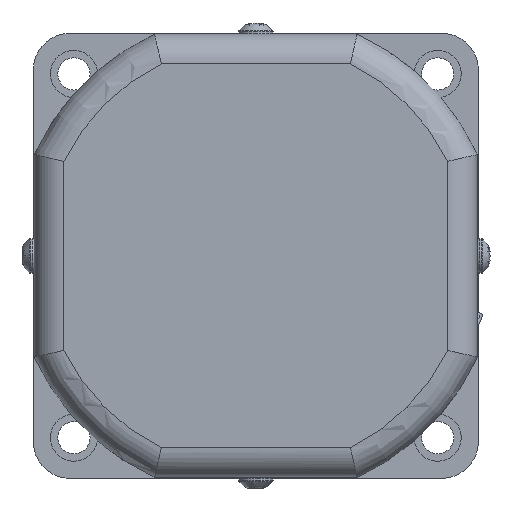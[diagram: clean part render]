
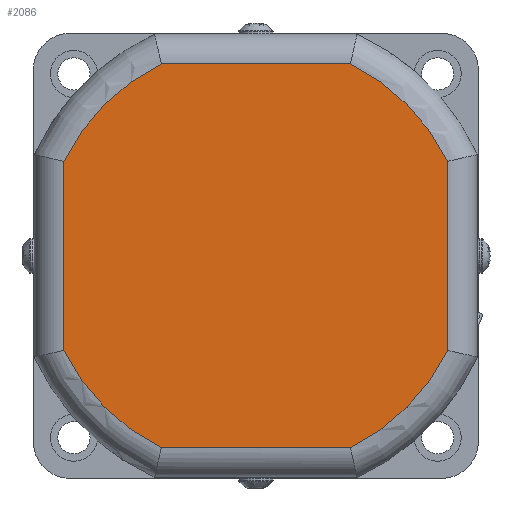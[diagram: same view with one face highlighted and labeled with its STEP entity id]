
A CAD part, left-side view. The second image highlights one B-rep face of the part: STEP entity #2086.
In plain terms, the highlighted planar face has unit normal (-1, 0, 0).
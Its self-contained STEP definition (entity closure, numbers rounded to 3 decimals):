
#1744=CARTESIAN_POINT('',(-23.,-38.8,19.108));
#1745=VERTEX_POINT('',#1744);
#1770=CARTESIAN_POINT('',(-23.,-19.108,38.8));
#1771=VERTEX_POINT('',#1770);
#1789=CARTESIAN_POINT('',(-23.,0.,0.));
#1790=DIRECTION('',(1.0,0.,0.));
#1791=DIRECTION('',(0.,-0.707,0.707));
#1792=AXIS2_PLACEMENT_3D('',#1789,#1790,#1791);
#1793=CIRCLE('',#1792,43.25);
#1794=EDGE_CURVE('',#1771,#1745,#1793,.T.);
#1804=CARTESIAN_POINT('',(-23.,19.108,38.8));
#1805=VERTEX_POINT('',#1804);
#1823=CARTESIAN_POINT('',(-23.,19.108,38.8));
#1824=DIRECTION('',(0.0,-1.0,0.0));
#1825=VECTOR('',#1824,38.216);
#1826=LINE('',#1823,#1825);
#1827=EDGE_CURVE('',#1805,#1771,#1826,.T.);
#1839=CARTESIAN_POINT('',(-23.,-38.8,-19.108));
#1840=VERTEX_POINT('',#1839);
#1860=CARTESIAN_POINT('',(-23.,-38.8,19.108));
#1861=DIRECTION('',(0.0,0.0,-1.0));
#1862=VECTOR('',#1861,38.216);
#1863=LINE('',#1860,#1862);
#1864=EDGE_CURVE('',#1745,#1840,#1863,.T.);
#1874=CARTESIAN_POINT('',(-23.,38.8,19.108));
#1875=VERTEX_POINT('',#1874);
#1893=CARTESIAN_POINT('',(-23.,0.,0.));
#1894=DIRECTION('',(1.0,0.,0.));
#1895=DIRECTION('',(0.,0.707,0.707));
#1896=AXIS2_PLACEMENT_3D('',#1893,#1894,#1895);
#1897=CIRCLE('',#1896,43.25);
#1898=EDGE_CURVE('',#1875,#1805,#1897,.T.);
#1916=CARTESIAN_POINT('',(-23.,-19.108,-38.8));
#1917=VERTEX_POINT('',#1916);
#1943=CARTESIAN_POINT('',(-23.,0.,0.));
#1944=DIRECTION('',(1.0,0.,0.));
#1945=DIRECTION('',(0.,-0.707,-0.707));
#1946=AXIS2_PLACEMENT_3D('',#1943,#1944,#1945);
#1947=CIRCLE('',#1946,43.25);
#1948=EDGE_CURVE('',#1840,#1917,#1947,.T.);
#1958=CARTESIAN_POINT('',(-23.,38.8,-19.108));
#1959=VERTEX_POINT('',#1958);
#1977=CARTESIAN_POINT('',(-23.,38.8,-19.108));
#1978=DIRECTION('',(0.0,0.0,1.0));
#1979=VECTOR('',#1978,38.216);
#1980=LINE('',#1977,#1979);
#1981=EDGE_CURVE('',#1959,#1875,#1980,.T.);
#1993=CARTESIAN_POINT('',(-23.,19.108,-38.8));
#1994=VERTEX_POINT('',#1993);
#2014=CARTESIAN_POINT('',(-23.,-19.108,-38.8));
#2015=DIRECTION('',(0.0,1.0,0.0));
#2016=VECTOR('',#2015,38.216);
#2017=LINE('',#2014,#2016);
#2018=EDGE_CURVE('',#1917,#1994,#2017,.T.);
#2029=CARTESIAN_POINT('',(-23.,0.,0.));
#2030=DIRECTION('',(1.,0.,0.));
#2031=DIRECTION('',(0.,0.707,-0.707));
#2032=AXIS2_PLACEMENT_3D('',#2029,#2030,#2031);
#2033=CIRCLE('',#2032,43.25);
#2034=EDGE_CURVE('',#1994,#1959,#2033,.T.);
#2071=CARTESIAN_POINT('',(-23.,0.,0.));
#2072=DIRECTION('',(1.0,0.0,0.0));
#2073=DIRECTION('',(0.0,-1.0,0.0));
#2074=AXIS2_PLACEMENT_3D('',#2071,#2072,#2073);
#2075=PLANE('',#2074);
#2076=ORIENTED_EDGE('',*,*,#2018,.F.);
#2077=ORIENTED_EDGE('',*,*,#1948,.F.);
#2078=ORIENTED_EDGE('',*,*,#1864,.F.);
#2079=ORIENTED_EDGE('',*,*,#1794,.F.);
#2080=ORIENTED_EDGE('',*,*,#1827,.F.);
#2081=ORIENTED_EDGE('',*,*,#1898,.F.);
#2082=ORIENTED_EDGE('',*,*,#1981,.F.);
#2083=ORIENTED_EDGE('',*,*,#2034,.F.);
#2084=EDGE_LOOP('',(#2076,#2077,#2078,#2079,#2080,#2081,#2082,#2083));
#2085=FACE_OUTER_BOUND('',#2084,.T.);
#2086=ADVANCED_FACE('',(#2085),#2075,.F.);
